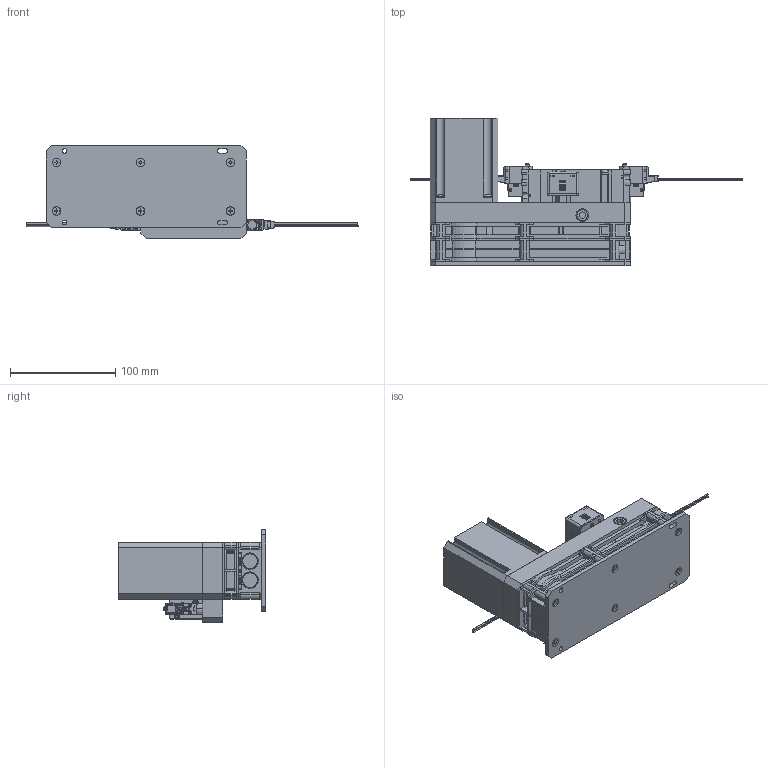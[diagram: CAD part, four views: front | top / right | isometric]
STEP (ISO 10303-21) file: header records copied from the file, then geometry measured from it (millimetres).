
FILE_DESCRIPTION(('STEP AP203'),'1');
FILE_NAME('BCVZ-1,2-SSG-V_3D.stp','2024-08-30T09:10:34',(' '),(' '),'Spatial InterOp 3D',' ',' ');
FILE_SCHEMA(('CONFIG_CONTROL_DESIGN'));
Length unit declared in the file: millimetre
Products named in the file (23): NAUO3; NAUO7; NAUO8; NAUO9; BCVZ-1,2-V 밸브; NAUO6; NAUO4; NAUO5; PG2_____; NONE; 볼트; BCVZ-1,2-SSG-V; BCVZ-B_base; CVZ-U1_unit; CZS-U2_unit; CVZ-S_silencer; MPS-V60DL-R1-J-S1; BCVZ-1,2-V-S 공급베이스
Assembly tree (26 placements, depth 4):
  BCVZ-1,2-SSG-V
    BCVZ-1,2-V 밸브
      NAUO3  x2
        NAUO7
        NAUO8
        NAUO9
      NAUO6
      NAUO4
      NAUO5  x2
      PG2_____
        NONE  x2
        NONE
      볼트
      볼트
      PG2_____
        NONE  x2
        NONE
    BCVZ-B_base
    CVZ-U1_unit
    CZS-U2_unit
    CVZ-S_silencer
    MPS-V60DL-R1-J-S1
    BCVZ-1,2-V-S 공급베이스
Bounding box: 315.2 x 140 x 88 mm (x, y, z)
Volume: 840836.6 mm3; surface area: 216581.8 mm2
Topology: 24 solids, 26 shells, 2673 faces, 7265 edges, 4789 vertices
Faces by surface type: plane 1789, cylinder 779, torus 52, cone 47, sphere 4, bspline 2
Full cylindrical faces by diameter (mm): 1 x1, 2.459 x2, 3.3 x2, 4 x6, 4.134 x1, 4.5 x2, 6.7 x2, 7 x4, 8 x9, 8.647 x1, 11.676 x1, 12 x2, 24 x1
Entity records: 73050 total; most frequent: CARTESIAN_POINT 13546, ORIENTED_EDGE 12190, DIRECTION 12089, EDGE_CURVE 6095, LINE 4405, VECTOR 4405, VERTEX_POINT 4072, AXIS2_PLACEMENT_3D 3842
